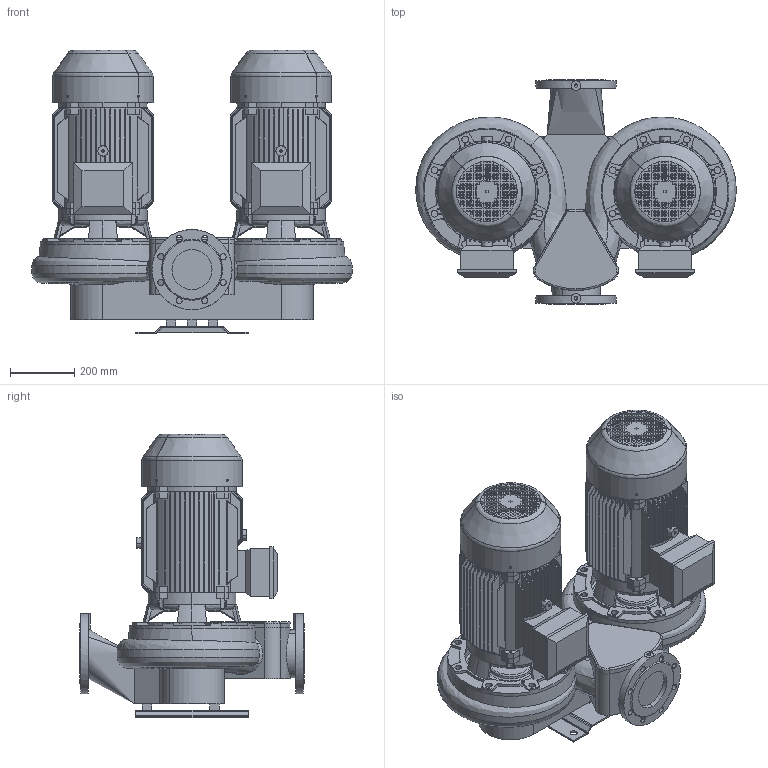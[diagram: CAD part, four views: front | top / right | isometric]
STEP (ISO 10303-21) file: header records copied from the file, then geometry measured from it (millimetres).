
FILE_DESCRIPTION(('STEP AP214'),'1');
FILE_NAME('export.stp','2018-05-28T12:44:42',(' '),(' '),'Spatial InterOp 3D',' ',' ');
FILE_SCHEMA(('AUTOMOTIVE_DESIGN { 1 0 10303 214 1 1 1 1 }'));
Length unit declared in the file: millimetre
Products named in the file (12): W_AT11294150KP166; V_TL110611291154; V_PPAT1129; P100496; P100495; P100342; V_MKP166G2F31; R200366; R200574; R200573; R200587
Assembly tree (17 placements, depth 3):
  W_AT11294150KP166
    V_TL110611291154  x2
    V_PPAT1129
    P100496
      P100495  x2
      P100342
    V_MKP166G2F31
      R200366
      R200574
      R200573
      R200587
    V_MKP166G2F31
      R200366
      R200574
      R200573
      R200587
Bounding box: 999.81 x 700 x 884.5 mm (x, y, z)
Volume: 98574118.3 mm3; surface area: 11836764.7 mm2
Topology: 14 solids, 14 shells, 3563 faces, 10191 edges, 6647 vertices
Faces by surface type: plane 2419, cylinder 606, cone 364, torus 106, bspline 68
Entity records: 101329 total; most frequent: CARTESIAN_POINT 20342, ORIENTED_EDGE 10874, DIRECTION 9677, EDGE_CURVE 5437, STYLED_ITEM 4997, PRESENTATION_STYLE_ASSIGNMENT 4997, COLOUR_RGB 4997, VERTEX_POINT 3549
